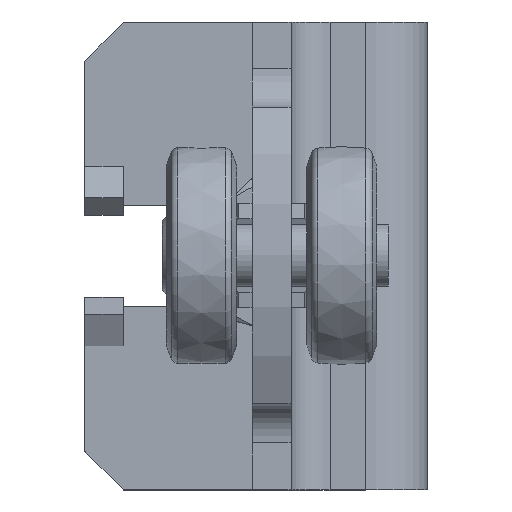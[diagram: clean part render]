
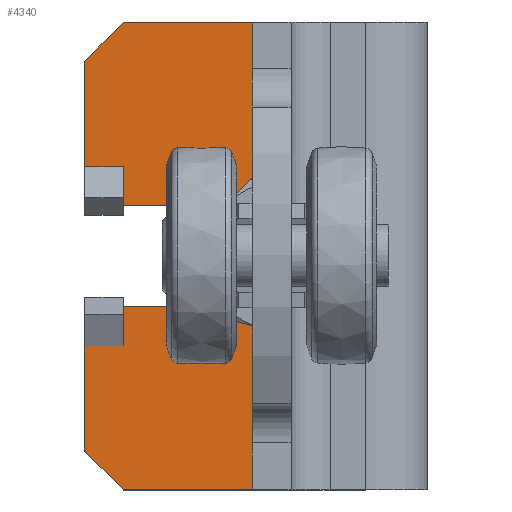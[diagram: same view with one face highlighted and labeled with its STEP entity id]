
A CAD part, top view. The second image highlights one B-rep face of the part: STEP entity #4340.
In plain terms, the highlighted planar face has unit normal (0, 0, 1).
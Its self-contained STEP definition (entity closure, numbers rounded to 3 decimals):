
#284=FACE_OUTER_BOUND('',#550,.T.);
#550=EDGE_LOOP('',(#2921,#2922,#2923,#2924,#2925,#2926,#2927,#2928,#2929,
#2930,#2931,#2932,#2933,#2934,#2935,#2936,#2937,#2938));
#859=LINE('',#6532,#1235);
#861=LINE('',#6536,#1237);
#862=LINE('',#6538,#1238);
#863=LINE('',#6540,#1239);
#864=LINE('',#6542,#1240);
#865=LINE('',#6544,#1241);
#866=LINE('',#6546,#1242);
#867=LINE('',#6548,#1243);
#868=LINE('',#6550,#1244);
#869=LINE('',#6552,#1245);
#870=LINE('',#6554,#1246);
#871=LINE('',#6556,#1247);
#872=LINE('',#6558,#1248);
#873=LINE('',#6562,#1249);
#874=LINE('',#6564,#1250);
#875=LINE('',#6566,#1251);
#876=LINE('',#6567,#1252);
#1235=VECTOR('',#5141,5.);
#1237=VECTOR('',#5145,13.51);
#1238=VECTOR('',#5146,7.071);
#1239=VECTOR('',#5147,31.);
#1240=VECTOR('',#5148,60.);
#1241=VECTOR('',#5149,31.);
#1242=VECTOR('',#5150,7.071);
#1243=VECTOR('',#5151,13.51);
#1244=VECTOR('',#5152,5.);
#1245=VECTOR('',#5153,0.01);
#1246=VECTOR('',#5154,0.01);
#1247=VECTOR('',#5155,5.);
#1248=VECTOR('',#5156,19.99);
#1249=VECTOR('',#5159,19.99);
#1250=VECTOR('',#5160,5.);
#1251=VECTOR('',#5161,0.01);
#1252=VECTOR('',#5162,0.01);
#1609=CIRCLE('',#4619,6.5);
#1839=VERTEX_POINT('',#6516);
#1842=VERTEX_POINT('',#6523);
#1844=VERTEX_POINT('',#6535);
#1845=VERTEX_POINT('',#6537);
#1846=VERTEX_POINT('',#6539);
#1847=VERTEX_POINT('',#6541);
#1848=VERTEX_POINT('',#6543);
#1849=VERTEX_POINT('',#6545);
#1850=VERTEX_POINT('',#6547);
#1851=VERTEX_POINT('',#6549);
#1852=VERTEX_POINT('',#6551);
#1853=VERTEX_POINT('',#6553);
#1854=VERTEX_POINT('',#6555);
#1855=VERTEX_POINT('',#6557);
#1856=VERTEX_POINT('',#6559);
#1857=VERTEX_POINT('',#6561);
#1858=VERTEX_POINT('',#6563);
#1859=VERTEX_POINT('',#6565);
#2271=EDGE_CURVE('',#1839,#1842,#859,.T.);
#2273=EDGE_CURVE('',#1844,#1842,#861,.T.);
#2274=EDGE_CURVE('',#1845,#1844,#862,.T.);
#2275=EDGE_CURVE('',#1846,#1845,#863,.T.);
#2276=EDGE_CURVE('',#1846,#1847,#864,.T.);
#2277=EDGE_CURVE('',#1848,#1847,#865,.T.);
#2278=EDGE_CURVE('',#1849,#1848,#866,.T.);
#2279=EDGE_CURVE('',#1850,#1849,#867,.T.);
#2280=EDGE_CURVE('',#1850,#1851,#868,.T.);
#2281=EDGE_CURVE('',#1851,#1852,#869,.T.);
#2282=EDGE_CURVE('',#1852,#1853,#870,.T.);
#2283=EDGE_CURVE('',#1853,#1854,#871,.T.);
#2284=EDGE_CURVE('',#1855,#1854,#872,.T.);
#2285=EDGE_CURVE('',#1856,#1855,#1609,.T.);
#2286=EDGE_CURVE('',#1857,#1856,#873,.T.);
#2287=EDGE_CURVE('',#1857,#1858,#874,.T.);
#2288=EDGE_CURVE('',#1858,#1859,#875,.T.);
#2289=EDGE_CURVE('',#1859,#1839,#876,.T.);
#2921=ORIENTED_EDGE('',*,*,#2271,.T.);
#2922=ORIENTED_EDGE('',*,*,#2273,.F.);
#2923=ORIENTED_EDGE('',*,*,#2274,.F.);
#2924=ORIENTED_EDGE('',*,*,#2275,.F.);
#2925=ORIENTED_EDGE('',*,*,#2276,.T.);
#2926=ORIENTED_EDGE('',*,*,#2277,.F.);
#2927=ORIENTED_EDGE('',*,*,#2278,.F.);
#2928=ORIENTED_EDGE('',*,*,#2279,.F.);
#2929=ORIENTED_EDGE('',*,*,#2280,.T.);
#2930=ORIENTED_EDGE('',*,*,#2281,.T.);
#2931=ORIENTED_EDGE('',*,*,#2282,.T.);
#2932=ORIENTED_EDGE('',*,*,#2283,.T.);
#2933=ORIENTED_EDGE('',*,*,#2284,.F.);
#2934=ORIENTED_EDGE('',*,*,#2285,.F.);
#2935=ORIENTED_EDGE('',*,*,#2286,.F.);
#2936=ORIENTED_EDGE('',*,*,#2287,.T.);
#2937=ORIENTED_EDGE('',*,*,#2288,.T.);
#2938=ORIENTED_EDGE('',*,*,#2289,.T.);
#4195=PLANE('',#4618);
#4340=ADVANCED_FACE('',(#284),#4195,.T.);
#4618=AXIS2_PLACEMENT_3D('',#6534,#5143,#5144);
#4619=AXIS2_PLACEMENT_3D('',#6560,#5157,#5158);
#5141=DIRECTION('',(-1.,0.,0.));
#5143=DIRECTION('center_axis',(0.,0.,1.));
#5144=DIRECTION('ref_axis',(1.,0.,0.));
#5145=DIRECTION('',(0.,1.,0.));
#5146=DIRECTION('',(-0.707,0.707,0.));
#5147=DIRECTION('',(-1.,0.,0.));
#5148=DIRECTION('',(0.,1.,0.));
#5149=DIRECTION('',(1.,0.,0.));
#5150=DIRECTION('',(0.707,0.707,0.));
#5151=DIRECTION('',(0.,1.,0.));
#5152=DIRECTION('',(1.,0.,0.));
#5153=DIRECTION('',(0.,1.,0.));
#5154=DIRECTION('',(1.,0.,0.));
#5155=DIRECTION('',(0.,-1.,0.));
#5156=DIRECTION('',(-1.,0.,0.));
#5157=DIRECTION('center_axis',(0.,0.,1.));
#5158=DIRECTION('ref_axis',(0.,-1.,0.));
#5159=DIRECTION('',(1.,0.,0.));
#5160=DIRECTION('',(0.,-1.,0.));
#5161=DIRECTION('',(-1.,0.,0.));
#5162=DIRECTION('',(0.,1.,0.));
#6516=CARTESIAN_POINT('',(-20.,-11.49,0.));
#6523=CARTESIAN_POINT('',(-25.,-11.49,0.));
#6532=CARTESIAN_POINT('',(-2.647,-11.49,0.));
#6534=CARTESIAN_POINT('Origin',(19.706,0.,0.));
#6535=CARTESIAN_POINT('',(-25.,-25.,0.));
#6536=CARTESIAN_POINT('',(-25.,-25.,0.));
#6537=CARTESIAN_POINT('',(-20.,-30.,0.));
#6538=CARTESIAN_POINT('',(-20.,-30.,0.));
#6539=CARTESIAN_POINT('',(11.,-30.,0.));
#6540=CARTESIAN_POINT('',(49.,-30.,0.));
#6541=CARTESIAN_POINT('',(11.,30.,0.));
#6542=CARTESIAN_POINT('',(11.,15.,0.));
#6543=CARTESIAN_POINT('',(-20.,30.,0.));
#6544=CARTESIAN_POINT('',(-20.,30.,0.));
#6545=CARTESIAN_POINT('',(-25.,25.,0.));
#6546=CARTESIAN_POINT('',(-25.,25.,0.));
#6547=CARTESIAN_POINT('',(-25.,11.49,0.));
#6548=CARTESIAN_POINT('',(-25.,6.5,0.));
#6549=CARTESIAN_POINT('',(-20.,11.49,0.));
#6550=CARTESIAN_POINT('',(-0.147,11.49,0.));
#6551=CARTESIAN_POINT('',(-20.,11.5,0.));
#6552=CARTESIAN_POINT('',(-20.,5.75,0.));
#6553=CARTESIAN_POINT('',(-19.99,11.5,0.));
#6554=CARTESIAN_POINT('',(-0.142,11.5,0.));
#6555=CARTESIAN_POINT('',(-19.99,6.5,0.));
#6556=CARTESIAN_POINT('',(-19.99,3.25,0.));
#6557=CARTESIAN_POINT('',(0.,6.5,0.));
#6558=CARTESIAN_POINT('',(0.,6.5,0.));
#6559=CARTESIAN_POINT('',(0.,-6.5,0.));
#6560=CARTESIAN_POINT('Origin',(0.,0.,0.));
#6561=CARTESIAN_POINT('',(-19.99,-6.5,0.));
#6562=CARTESIAN_POINT('',(-25.,-6.5,0.));
#6563=CARTESIAN_POINT('',(-19.99,-11.5,0.));
#6564=CARTESIAN_POINT('',(-19.99,-5.75,0.));
#6565=CARTESIAN_POINT('',(-20.,-11.5,0.));
#6566=CARTESIAN_POINT('',(-0.147,-11.5,0.));
#6567=CARTESIAN_POINT('',(-20.,-3.25,0.));
